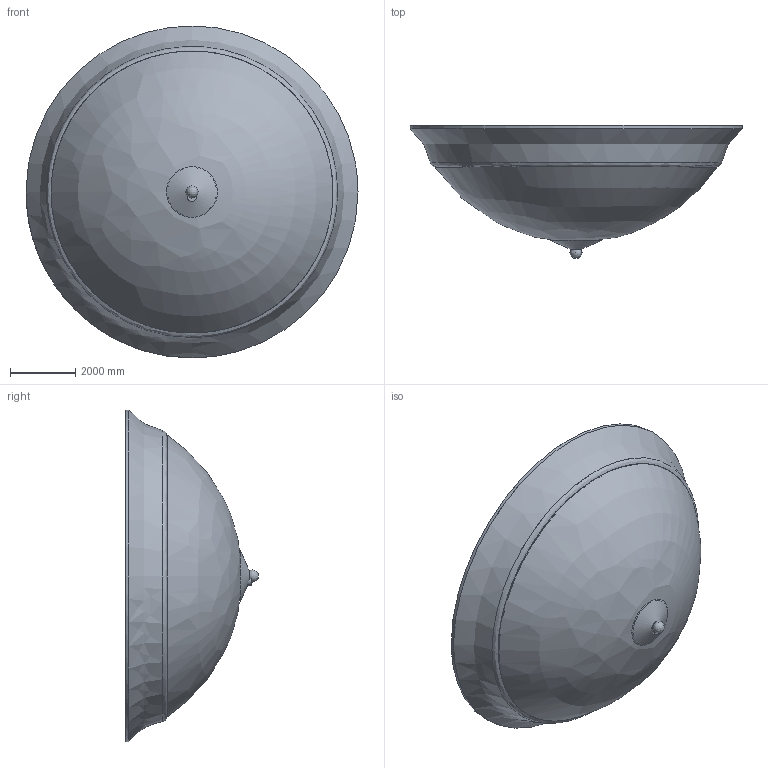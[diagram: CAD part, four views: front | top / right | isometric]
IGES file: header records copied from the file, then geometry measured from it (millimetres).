
Global section: file name: Brahm Flush Ceiling Lamp-D15.7″,4; native system: 8HAutoCAD 2022 - 简体中文 (Simplified Chinese); preprocessor: Autodesk Translation Framework DWG producer (atf_dwg_producer); organization: unknown; date: 20251017.090448; units: inch
Bounding box: 10162.75 x 4066.68 x 10162.71 mm (x, y, z)
Volume: 7005427639.5 mm3; surface area: 405092174.1 mm2
Topology: 9 solids, 9 shells, 59 faces, 141 edges, 102 vertices
Faces by surface type: bspline 59
